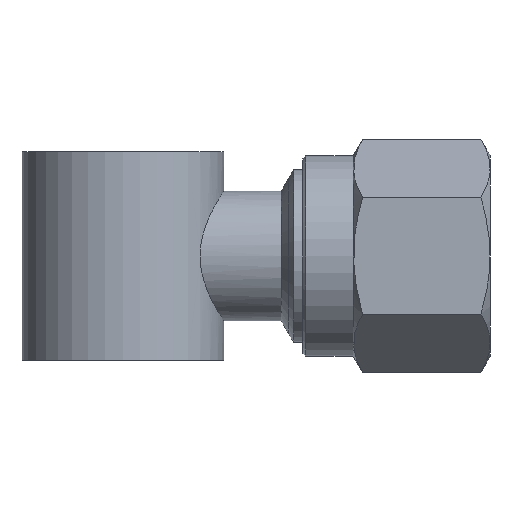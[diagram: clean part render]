
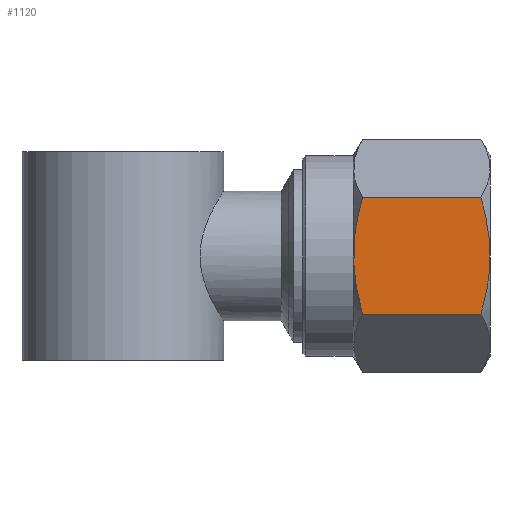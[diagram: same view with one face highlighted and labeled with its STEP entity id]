
A CAD part, front view. The second image highlights one B-rep face of the part: STEP entity #1120.
In plain terms, the highlighted planar face has unit normal (0, -1, 0).
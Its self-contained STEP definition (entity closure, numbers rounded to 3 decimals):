
#1120=ADVANCED_FACE('', (#1130), #1140, .T.);
#4000=AXIS2_PLACEMENT_3D('Ax2Pl3d', #4010, #4020, #4030);
#19420=(B_SPLINE_CURVE(2, (#19430,#19440,#19450), .UNSPECIFIED., .F., 
.F.) B_SPLINE_CURVE_WITH_KNOTS((3,3), (0.,1.), .UNSPECIFIED.) 
BOUNDED_CURVE() CURVE() GEOMETRIC_REPRESENTATION_ITEM() 
RATIONAL_B_SPLINE_CURVE((1.,1.155,1.)) REPRESENTATION_ITEM(
'Nurb'));
#19780=(B_SPLINE_CURVE(2, (#19790,#19800,#19810), .UNSPECIFIED., .F., 
.F.) B_SPLINE_CURVE_WITH_KNOTS((3,3), (0.,1.), .UNSPECIFIED.) 
BOUNDED_CURVE() CURVE() GEOMETRIC_REPRESENTATION_ITEM() 
RATIONAL_B_SPLINE_CURVE((1.,1.038,1.)) REPRESENTATION_ITEM('Nurb'
));
#19820=(B_SPLINE_CURVE(2, (#19830,#19840,#19850), .UNSPECIFIED., .F., 
.F.) B_SPLINE_CURVE_WITH_KNOTS((3,3), (0.,1.), .UNSPECIFIED.) 
BOUNDED_CURVE() CURVE() GEOMETRIC_REPRESENTATION_ITEM() 
RATIONAL_B_SPLINE_CURVE((1.,1.038,1.)) REPRESENTATION_ITEM('Nurb'
));
#20160=CARTESIAN_POINT('', (28.384,5.432,15.455));
#20200=CARTESIAN_POINT('', (28.384,5.432,7.372));
#19430=CARTESIAN_POINT('', (28.384,5.432,15.455));
#19440=CARTESIAN_POINT('', (27.217,5.432,11.414));
#19450=CARTESIAN_POINT('', (28.384,5.432,7.372))
;
#20320=CARTESIAN_POINT('', (36.605,5.432,7.372));
#20330=CARTESIAN_POINT('', (36.605,5.432,7.372));
#4010=CARTESIAN_POINT('HicPkt', (24.225,5.432,
15.455));
#20350=CARTESIAN_POINT('', (36.605,5.432,15.455));
#20360=CARTESIAN_POINT('', (36.605,5.432,15.455));
#19790=CARTESIAN_POINT('', (36.605,5.432,7.372));
#19800=CARTESIAN_POINT('', (37.23,5.432,9.538));
#19810=CARTESIAN_POINT('', (37.23,5.432,11.414))
;
#20370=CARTESIAN_POINT('', (37.23,5.432,11.414));
#19830=CARTESIAN_POINT('', (37.23,5.432,11.414));
#19840=CARTESIAN_POINT('', (37.23,5.432,13.289));
#19850=CARTESIAN_POINT('', (36.605,5.432,15.455))
;
#23060=DIRECTION('', (1.,0.,0.));
#4020=DIRECTION('Axis', (0.,-1.,0.)
);
#4030=DIRECTION('RefDirection', (0.,
0.,-1.));
#23070=DIRECTION('', (1.,0.,0.));
#23630=EDGE_CURVE('', #23540, #23620, #19420, .T.);
#23850=EDGE_CURVE('', #23620, #23860, #23870, .T.);
#23910=EDGE_CURVE('', #23540, #23920, #23930, .T.);
#23940=EDGE_CURVE('', #23860, #23950, #19780, .T.);
#23960=EDGE_CURVE('', #23950, #23920, #19820, .T.);
#25450=EDGE_LOOP('Edge_loop', (#25460,#25470,#25480,#25490,#25500));
#1130=FACE_OUTER_BOUND('Face_outer_bound', #25450, .T.);
#23870=LINE('Line', #20320, #27010);
#23930=LINE('Line', #20350, #27020);
#25460=ORIENTED_EDGE('', *, *, #23910, .F.);
#25470=ORIENTED_EDGE('', *, *, #23630, .T.);
#25480=ORIENTED_EDGE('', *, *, #23850, .T.);
#25490=ORIENTED_EDGE('', *, *, #23940, .T.);
#25500=ORIENTED_EDGE('', *, *, #23960, .T.);
#1140=PLANE('Plane', #4000);
#27010=VECTOR('', #23060, 8.221);
#27020=VECTOR('', #23070, 8.221);
#23540=VERTEX_POINT('', #20160);
#23620=VERTEX_POINT('', #20200);
#23860=VERTEX_POINT('', #20330);
#23920=VERTEX_POINT('', #20360);
#23950=VERTEX_POINT('', #20370);
